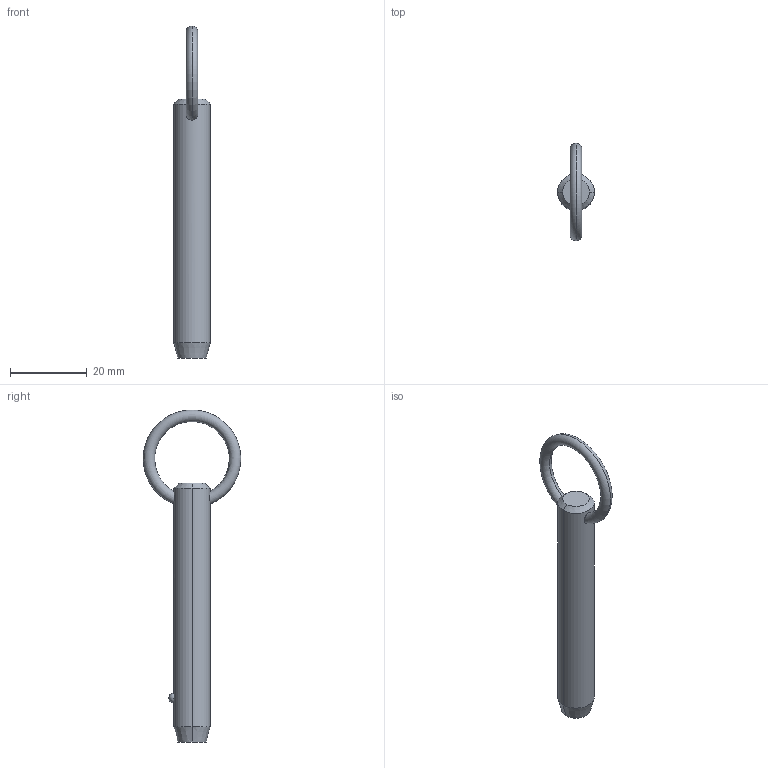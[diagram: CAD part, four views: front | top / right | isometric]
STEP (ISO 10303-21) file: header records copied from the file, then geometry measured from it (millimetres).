
FILE_DESCRIPTION (( 'STEP AP203' ), '1' );
FILE_NAME ('P1250.037-190.step', '2019-07-29T20:01:12', ( '' ), ( '' ), 'SwSTEP 2.0', 'SolidWorks 2017', '' );
FILE_SCHEMA (( 'CONFIG_CONTROL_DESIGN' ));
Length unit declared in the file: millimetre
Products named in the file (1): P1250.037-190
Bounding box: 9.52 x 25.39 x 86.4 mm (x, y, z)
Volume: 5145.2 mm3; surface area: 2656.5 mm2
Topology: 1 solids, 1 shells, 12 faces, 28 edges, 17 vertices
Faces by surface type: cone 4, torus 2, sphere 2, cylinder 2, plane 2
Entity records: 523 total; most frequent: CARTESIAN_POINT 190, DIRECTION 56, ORIENTED_EDGE 48, AXIS2_PLACEMENT_3D 25, EDGE_CURVE 24, EDGE_LOOP 15, VERTEX_POINT 15, CIRCLE 12
